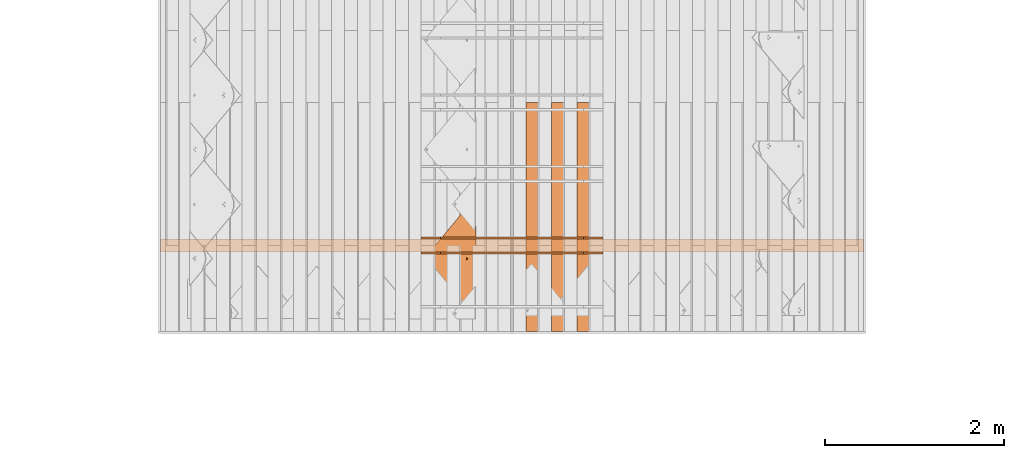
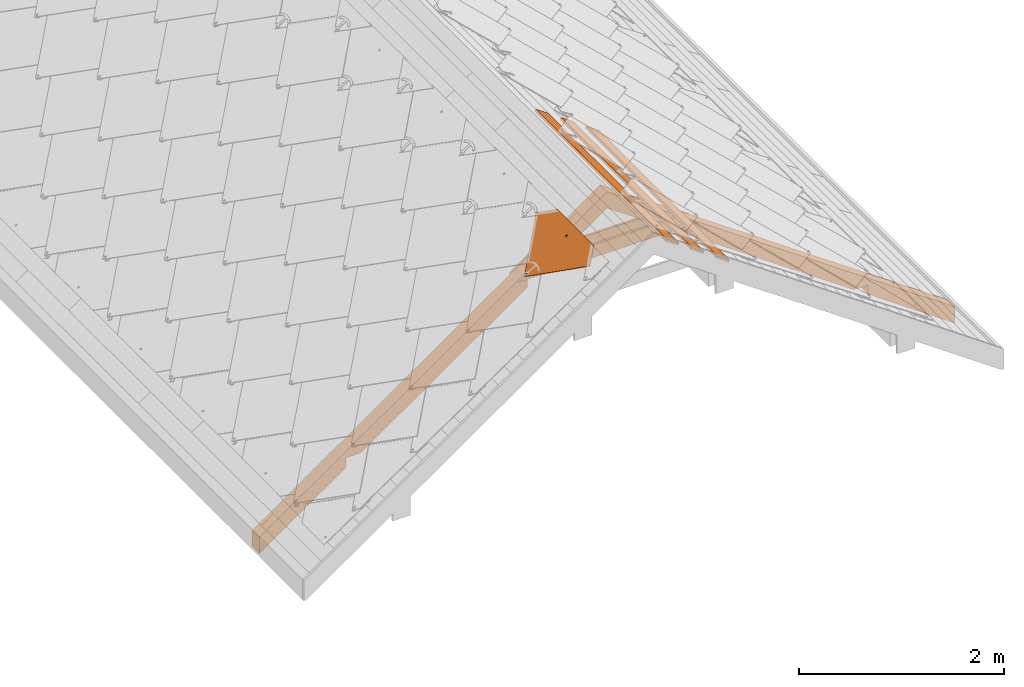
# One storey, part 15 of 133: 7 proxies, 1 element without a shape of its own.
"""IFC2X3 building model written with IfcOpenShell, lengths in millimetres."""

from ifc_helpers import new_model, entity, si_unit, converted_unit, derived_unit, direction, frame, frame_2d, origin, place, context, subcontext, project, spatial, polyline, rectangle, outline, extrude, faceted_brep, source, transform, mapped, material, material_list, type_object, type_shapes, element, aggregate, save


model = new_model("IFC2X3")

# Units and contexts
model_context = context("Model", 3, precision=0.01, world=origin(), true_north=direction((6.12303176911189e-17, 1.0)))
body_context = subcontext(model_context, "Body", "Model", "MODEL_VIEW")
ifc_project = project(units=[si_unit("LENGTHUNIT", "METRE", prefix="MILLI"), si_unit("AREAUNIT", "SQUARE_METRE"), si_unit("VOLUMEUNIT", "CUBIC_METRE"), converted_unit("PLANEANGLEUNIT", "DEGREE", entity("IfcRatioMeasure", 0.0174532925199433), si_unit("PLANEANGLEUNIT", "RADIAN"), dimensions=[0, 0, 0, 0, 0, 0, 0]), si_unit("MASSUNIT", "GRAM", prefix="KILO"), derived_unit("MASSDENSITYUNIT", [(si_unit("MASSUNIT", "GRAM", prefix="KILO"), 1), (si_unit("LENGTHUNIT", "METRE"), -3)]), si_unit("TIMEUNIT", "SECOND"), si_unit("FREQUENCYUNIT", "HERTZ"), si_unit("THERMODYNAMICTEMPERATUREUNIT", "DEGREE_CELSIUS"), derived_unit("THERMALTRANSMITTANCEUNIT", [(si_unit("MASSUNIT", "GRAM", prefix="KILO"), 1), (si_unit("THERMODYNAMICTEMPERATUREUNIT", "KELVIN"), -1), (si_unit("TIMEUNIT", "SECOND"), -3)]), derived_unit("VOLUMETRICFLOWRATEUNIT", [(si_unit("LENGTHUNIT", "METRE"), 3), (si_unit("TIMEUNIT", "SECOND"), -1)]), si_unit("ELECTRICCURRENTUNIT", "AMPERE"), si_unit("ELECTRICVOLTAGEUNIT", "VOLT"), si_unit("POWERUNIT", "WATT"), si_unit("FORCEUNIT", "NEWTON", prefix="KILO"), si_unit("ILLUMINANCEUNIT", "LUX"), si_unit("LUMINOUSFLUXUNIT", "LUMEN"), si_unit("LUMINOUSINTENSITYUNIT", "CANDELA"), derived_unit("USERDEFINED", [(si_unit("MASSUNIT", "GRAM", prefix="KILO"), -1), (si_unit("LENGTHUNIT", "METRE"), -2), (si_unit("TIMEUNIT", "SECOND"), 3), (si_unit("LUMINOUSFLUXUNIT", "LUMEN"), 1)]), derived_unit("LINEARVELOCITYUNIT", [(si_unit("LENGTHUNIT", "METRE"), 1), (si_unit("TIMEUNIT", "SECOND"), -1)]), si_unit("PRESSUREUNIT", "PASCAL"), derived_unit("USERDEFINED", [(si_unit("LENGTHUNIT", "METRE"), -2), (si_unit("MASSUNIT", "GRAM", prefix="KILO"), 1), (si_unit("TIMEUNIT", "SECOND"), -2)])], contexts=[model_context])

# Site, building, storey
site_placement = place(None, origin())
site = spatial("IfcSite", under=ifc_project, at=site_placement, Name="Default", CompositionType="ELEMENT")
building_placement = place(site_placement, origin())
building = spatial("IfcBuilding", under=site, at=building_placement, CompositionType="ELEMENT")
storey_placement = place(building_placement, origin())
storey = spatial("IfcBuildingStorey", under=building, at=storey_placement, Name="Level 1", CompositionType="ELEMENT", Elevation=0.0)

# Assembly, proxies
assembly_placement = place(storey_placement, origin())
assembly = element("IfcElementAssembly", 1, at=assembly_placement, inside=storey, Name="Structural Framing Assembly:Roof Construction Assembly", ObjectType="Structural Framing Assembly:Roof Construction Assembly", AssemblyPlace="NOTDEFINED", PredefinedType="USERDEFINED")
ifc_material_1 = material(Name="Wood - Generic - Wood For Showcase")
building_element_proxy_type_1 = type_object("IfcBuildingElementProxyType", Name="Structural Framing 1", PredefinedType="NOTDEFINED", material=ifc_material_1)
shared_shape_1 = source(origin(), body_context, "Body", "SweptSolid", [
    extrude(outline(polyline([(-929.245683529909, -1327.10037070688), (3863.2595049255, -1327.10037070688), (3975.29271103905, -1167.10037070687), (2778.93361405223, -1167.10037070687), (2713.54351952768, -1260.4871038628), (2580.17344271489, -1167.10037070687), (278.933614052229, -1167.10037070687), (213.543519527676, -1260.48710386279), (80.1734427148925, -1167.10037070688), (-817.212477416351, -1167.10037070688), (-1124.13653843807, -323.833443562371), (-1257.50661525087, -230.446710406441), (-1192.11652072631, -137.059977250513), (-1979.18689675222, 2025.39810840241), (-2112.55697356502, 2118.78484155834), (-2047.16687904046, 2212.17157471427), (-2456.3457888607, 3336.38138996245), (-2568.37899497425, 3176.38138996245), (-929.245683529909, -1327.10037070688)])), frame((1206.77890726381, 3785.55080214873, 1179.90959070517), z_axis=(0.0, 1.0, 0.0), x_axis=(0.819152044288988, 0.0, -0.573576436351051)), (0.0, 0.0, 1.0), 140.0),
])
type_shapes(building_element_proxy_type_1, [shared_shape_1])
proxy_1_placement = place(assembly_placement, frame((0.0, -9600.0, 0.0)))
proxy_1 = element("IfcBuildingElementProxy", 2, at=proxy_1_placement, type_object=building_element_proxy_type_1, material=ifc_material_1, Name="Structural Framing 13:Structural Framing 1", ObjectType="Structural Framing 13:Structural Framing 1", context=body_context, shape_type="MappedRepresentation", body=[
    mapped(shared_shape_1, transform((0.0, 0.0, 0.0), scale=1.0)),
])
building_element_proxy_type_2 = type_object("IfcBuildingElementProxyType", Name="Structural Framing 15", PredefinedType="NOTDEFINED", material=ifc_material_1)
shared_shape_2 = source(origin(), body_context, "Body", "SweptSolid", [
    extrude(rectangle(XDim=24.9999999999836, YDim=174.344679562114, at=frame_2d((3.73923114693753e-13, 6.3948846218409e-14), x_axis=(1.0, 0.0))), frame((1285.35601305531, 1437.09519417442, 2760.23940055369), z_axis=(0.0, 1.0, 0.0), x_axis=(0.573576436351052, 0.0, 0.819152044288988)), (0.0, 0.0, 1.0), 2558.4556079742),
])
type_shapes(building_element_proxy_type_2, [shared_shape_2])
proxy_2_placement = place(assembly_placement, frame((142.814800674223, -8140.0, -100.0)))
proxy_2 = element("IfcBuildingElementProxy", 3, at=proxy_2_placement, type_object=building_element_proxy_type_2, material=ifc_material_1, Name="Structural Framing 163:Structural Framing 15", ObjectType="Structural Framing 163:Structural Framing 15", context=body_context, shape_type="MappedRepresentation", body=[
    mapped(shared_shape_2, transform((0.0, 0.0, 0.0), scale=1.0)),
])
building_element_proxy_type_3 = type_object("IfcBuildingElementProxyType", Name="Structural Framing 15", PredefinedType="NOTDEFINED", material=ifc_material_1)
shared_shape_3 = source(origin(), body_context, "Body", "SweptSolid", [
    extrude(rectangle(XDim=24.9999999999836, YDim=174.344679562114, at=frame_2d((3.73923114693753e-13, 6.3948846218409e-14), x_axis=(1.0, 0.0))), frame((1285.35601305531, 1437.09519417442, 2760.23940055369), z_axis=(0.0, 1.0, 0.0), x_axis=(0.573576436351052, 0.0, 0.819152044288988)), (0.0, 0.0, 1.0), 2558.4556079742),
])
type_shapes(building_element_proxy_type_3, [shared_shape_3])
proxy_3_placement = place(assembly_placement, frame((428.444402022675, -8140.0, -300.0)))
proxy_3 = element("IfcBuildingElementProxy", 4, at=proxy_3_placement, type_object=building_element_proxy_type_3, material=ifc_material_1, Name="Structural Framing 173:Structural Framing 15", ObjectType="Structural Framing 173:Structural Framing 15", context=body_context, shape_type="MappedRepresentation", body=[
    mapped(shared_shape_3, transform((0.0, 0.0, 0.0), scale=1.0)),
])
building_element_proxy_type_4 = type_object("IfcBuildingElementProxyType", Name="Structural Framing 15", PredefinedType="NOTDEFINED", material=ifc_material_1)
shared_shape_4 = source(origin(), body_context, "Body", "SweptSolid", [
    extrude(rectangle(XDim=24.9999999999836, YDim=174.344679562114, at=frame_2d((3.73923114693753e-13, 6.3948846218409e-14), x_axis=(1.0, 0.0))), frame((1285.35601305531, 1437.09519417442, 2760.23940055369), z_axis=(0.0, 1.0, 0.0), x_axis=(0.573576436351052, 0.0, 0.819152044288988)), (0.0, 0.0, 1.0), 2558.4556079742),
])
type_shapes(building_element_proxy_type_4, [shared_shape_4])
proxy_4_placement = place(assembly_placement, frame((714.074003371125, -8140.0, -500.0)))
proxy_4 = element("IfcBuildingElementProxy", 5, at=proxy_4_placement, type_object=building_element_proxy_type_4, material=ifc_material_1, Name="Structural Framing 183:Structural Framing 15", ObjectType="Structural Framing 183:Structural Framing 15", context=body_context, shape_type="MappedRepresentation", body=[
    mapped(shared_shape_4, transform((0.0, 0.0, 0.0), scale=1.0)),
])
building_element_proxy_type_5 = type_object("IfcBuildingElementProxyType", Name="Structural Framing 296", PredefinedType="NOTDEFINED", material=ifc_material_1)
shared_shape_5 = source(origin(), body_context, "Body", "SweptSolid", [
    extrude(outline(polyline([(-1014.04699829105, -75.0), (1014.04699829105, -75.0), (799.824797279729, 75.0), (-799.824797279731, 75.0), (-1014.04699829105, -75.0)])), frame((1206.77890726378, 3760.55080214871, 2164.95664769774), z_axis=(0.0, 1.0, 0.0), x_axis=(-1.0, 0.0, 0.0)), (0.0, 0.0, 1.0), 24.9999999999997),
])
type_shapes(building_element_proxy_type_5, [shared_shape_5])
proxy_5_placement = place(assembly_placement, frame((0.0, -9600.0, 0.0)))
proxy_5 = element("IfcBuildingElementProxy", 6, at=proxy_5_placement, type_object=building_element_proxy_type_5, material=ifc_material_1, Name="Structural Framing 319:Structural Framing 296", ObjectType="Structural Framing 319:Structural Framing 296", context=body_context, shape_type="MappedRepresentation", body=[
    mapped(shared_shape_5, transform((0.0, 0.0, 0.0), scale=1.0)),
])
building_element_proxy_type_6 = type_object("IfcBuildingElementProxyType", Name="Structural Framing 296", PredefinedType="NOTDEFINED", material=ifc_material_1)
shared_shape_6 = source(origin(), body_context, "Body", "SweptSolid", [
    extrude(outline(polyline([(-1014.04699829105, -75.0), (1014.04699829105, -75.0), (799.824797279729, 75.0), (-799.824797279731, 75.0), (-1014.04699829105, -75.0)])), frame((1206.77890726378, 2325.55080214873, 2164.95664769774), z_axis=(0.0, 1.0, 0.0), x_axis=(-1.0, 0.0, 0.0)), (0.0, 0.0, 1.0), 25.0),
])
type_shapes(building_element_proxy_type_6, [shared_shape_6])
proxy_6_placement = place(assembly_placement, frame((0.0, -8000.0, 0.0)))
proxy_6 = element("IfcBuildingElementProxy", 7, at=proxy_6_placement, type_object=building_element_proxy_type_6, material=ifc_material_1, Name="Structural Framing 320:Structural Framing 296", ObjectType="Structural Framing 320:Structural Framing 296", context=body_context, shape_type="MappedRepresentation", body=[
    mapped(shared_shape_6, transform((0.0, 0.0, 0.0), scale=1.0)),
])
aggregate(assembly, [proxy_1, proxy_2, proxy_3, proxy_4, proxy_5, proxy_6])

# Proxy
ifc_material_2 = material(Name="Rubber - Sunstyle - Black")
ifc_material_3 = material(Name="Glass - Sunstyle - Tainted Black")
ifc_material_list_1 = material_list([ifc_material_2, ifc_material_3])
ifc_material_list_2 = material_list([ifc_material_2, ifc_material_3])
building_element_proxy_type_7 = type_object("IfcBuildingElementProxyType", Name="Shingle Top - Black", PredefinedType="NOTDEFINED", material=ifc_material_list_2)
shared_shape_7 = source(origin(), body_context, "Body", "Brep", [
    faceted_brep([(-518.396436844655, -96.9865733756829, 16.4476231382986), (-518.396436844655, -96.9614556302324, 17.9474128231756), (-526.881123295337, -88.4767691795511, 17.8053154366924), (-526.881123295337, -88.5018869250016, 16.3055257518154), (-376.996804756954, 61.3404039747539, 13.7960402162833), (-368.512118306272, 52.8557175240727, 13.9381376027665), (-376.996804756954, 61.3655217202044, 15.2958299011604), (-368.512118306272, 52.8808352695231, 15.4379272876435)], [[[0, 1, 2, 3]], [[0, 3, 4, 5]], [[3, 2, 6, 4]], [[2, 1, 7, 6]], [[1, 0, 5, 7]], [[5, 4, 6, 7]]]),
    faceted_brep([(0.166366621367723, -33.6374645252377, -4.47296585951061), (-5.6078362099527, -36.9707346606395, -4.4171418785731), (-5.60783620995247, -36.6024255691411, 17.5747274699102), (0.166366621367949, -33.2691554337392, 17.5189034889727), (-5.60783620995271, -43.6372749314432, -4.30549391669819), (-5.60783620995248, -43.2689658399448, 17.6863754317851), (0.166366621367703, -46.9705450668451, -4.24966993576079), (0.166366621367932, -46.6022359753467, 17.7421994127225), (5.94056945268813, -43.6372749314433, -4.30549391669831), (5.94056945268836, -43.2689658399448, 17.686375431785), (5.94056945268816, -36.9707346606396, -4.41714187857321), (5.94056945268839, -36.6024255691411, 17.5747274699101), (-8.43733754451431, -48.5381935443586, 17.774621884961), (0.16636662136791, -52.1014648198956, 17.8342978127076), (-12.0011084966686, -39.9356957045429, 17.6305514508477), (-8.43733754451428, -31.3331978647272, 17.4864810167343), (0.166366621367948, -27.7699265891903, 17.4268050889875), (8.77007078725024, -31.3331978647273, 17.4864810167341), (12.3338417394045, -39.935695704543, 17.6305514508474), (8.77007078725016, -48.5381935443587, 17.7746218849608), (-11.1578780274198, -37.6406185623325, 19.9433933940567), (-9.59010793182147, -39.8646808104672, 21.8708760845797), (0.166366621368, -32.5516055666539, 22.5035764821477), (0.166366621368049, -31.3111079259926, 21.9232298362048), (0.166366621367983, -29.1535570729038, 20.9138547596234), (0.166366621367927, -51.5454208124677, 19.1093557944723), (0.166366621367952, -50.6018442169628, 21.273060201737), (0.166366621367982, -47.1524685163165, 22.7481046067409), (0.166366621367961, -28.2829626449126, 18.7197675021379), (-6.15687907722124, -43.5022527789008, 22.6869725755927), (-6.15687907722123, -36.2018213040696, 22.5647085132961), (11.4906112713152, -42.1520387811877, 20.0189484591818), (10.0152467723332, -40.9390872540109, 21.7920079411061), (6.48961231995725, -36.2018213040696, 22.564708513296), (6.48961231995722, -43.5022527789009, 22.6869725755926), (-6.15687907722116, -43.3682243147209, 30.68986075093), (0.166366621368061, -47.0184400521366, 30.7509927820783), (0.166366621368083, -39.7180085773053, 30.6287287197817), (-6.15687907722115, -36.0677928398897, 30.5675966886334), (6.48961231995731, -43.368224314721, 30.6898607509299), (6.48961231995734, -36.0677928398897, 30.5675966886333), (0.166366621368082, -32.417577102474, 30.5064646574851), (0.166366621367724, -40.3040047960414, -4.36131789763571)], [[[0, 1, 2, 3]], [[1, 4, 5, 2]], [[4, 6, 7, 5]], [[6, 8, 9, 7]], [[8, 10, 11, 9]], [[10, 0, 3, 11]], [[12, 7, 13]], [[7, 12, 5]], [[14, 5, 12]], [[5, 14, 2]], [[15, 2, 14]], [[3, 2, 15]], [[15, 16, 3]], [[16, 17, 3]], [[11, 3, 17]], [[11, 17, 18]], [[9, 11, 18]], [[18, 19, 9]], [[7, 9, 19]], [[19, 13, 7]], [[20, 14, 12]], [[21, 22, 23, 24]], [[24, 20, 21]], [[25, 20, 12]], [[26, 27, 21]], [[15, 14, 20]], [[12, 13, 25]], [[20, 28, 15]], [[28, 20, 24]], [[21, 27, 29]], [[21, 29, 30]], [[26, 21, 20]], [[20, 25, 26]], [[15, 28, 16]], [[21, 30, 22]], [[31, 18, 17]], [[28, 31, 17]], [[32, 27, 26]], [[26, 31, 32]], [[26, 25, 31]], [[25, 19, 31]], [[17, 16, 28]], [[31, 19, 18]], [[24, 31, 28]], [[33, 34, 32]], [[23, 22, 33]], [[24, 32, 31]], [[27, 32, 34]], [[32, 23, 33]], [[19, 25, 13]], [[32, 24, 23]], [[35, 36, 37]], [[37, 38, 35]], [[36, 39, 37]], [[40, 37, 39]], [[37, 40, 41]], [[37, 41, 38]], [[42, 6, 4]], [[4, 1, 42]], [[1, 0, 42]], [[42, 8, 6]], [[0, 10, 42]], [[8, 42, 10]], [[22, 30, 38, 41]], [[30, 29, 35, 38]], [[29, 27, 36, 35]], [[27, 34, 39, 36]], [[34, 33, 40, 39]], [[33, 22, 41, 40]]]),
    faceted_brep([(0.0, -573.927138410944, 4.00636906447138), (-5.77420283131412, -577.260408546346, 4.0621930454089), (-5.77420283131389, -576.892099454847, 26.0540623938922), (0.0, -573.558829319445, 25.9982384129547), (-5.77420283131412, -583.926948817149, 4.1738410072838), (-5.7742028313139, -583.558639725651, 26.1657103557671), (0.0, -587.260218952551, 4.2296649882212), (0.0, -586.891909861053, 26.2215343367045), (5.77420283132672, -583.926948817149, 4.17384100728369), (5.77420283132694, -583.558639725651, 26.165710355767), (5.77420283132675, -577.260408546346, 4.06219304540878), (5.77420283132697, -576.892099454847, 26.0540623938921), (-8.60370416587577, -588.827867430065, 26.253956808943), (0.0, -592.391138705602, 26.3136327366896), (-12.1674751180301, -580.225369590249, 26.1098863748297), (-8.60370416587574, -571.622871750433, 25.9658159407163), (0.0, -568.059600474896, 25.9061400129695), (8.60370416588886, -571.622871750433, 25.9658159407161), (12.1674751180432, -580.225369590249, 26.1098863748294), (8.60370416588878, -588.827867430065, 26.2539568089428), (-11.3242446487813, -577.930292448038, 28.4227283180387), (-9.75647455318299, -580.154354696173, 30.3502110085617), (0.0, -572.84127945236, 30.9829114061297), (0.0, -571.600781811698, 30.4025647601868), (0.0, -569.44323095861, 29.3931896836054), (0.0, -591.835094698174, 27.5886907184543), (0.0, -590.891518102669, 29.752395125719), (0.0, -587.442142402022, 31.227439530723), (0.0, -568.572636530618, 27.1991024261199), (-6.32324569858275, -583.791926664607, 31.1663074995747), (-6.32324569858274, -576.491495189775, 31.0440434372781), (11.3242446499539, -582.441712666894, 28.4982833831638), (9.84888015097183, -581.228761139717, 30.2713428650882), (6.32324569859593, -576.491495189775, 31.044043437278), (6.32324569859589, -583.791926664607, 31.1663074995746), (-6.32324569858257, -583.657898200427, 39.169195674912), (0.0, -587.308113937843, 39.2303277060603), (0.0, -580.007682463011, 39.1080636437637), (-6.32324569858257, -576.357466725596, 39.0469316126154), (6.32324569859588, -583.657898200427, 39.1691956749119), (6.32324569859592, -576.357466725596, 39.0469316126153), (0.0, -572.70725098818, 38.9857995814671), (0.0, -580.593678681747, 4.11801702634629)], [[[0, 1, 2, 3]], [[1, 4, 5, 2]], [[4, 6, 7, 5]], [[6, 8, 9, 7]], [[8, 10, 11, 9]], [[10, 0, 3, 11]], [[12, 7, 13]], [[7, 12, 5]], [[14, 5, 12]], [[5, 14, 2]], [[15, 2, 14]], [[3, 2, 15]], [[15, 16, 3]], [[16, 17, 3]], [[11, 3, 17]], [[11, 17, 18]], [[9, 11, 18]], [[18, 19, 9]], [[7, 9, 19]], [[19, 13, 7]], [[20, 14, 12]], [[21, 22, 23, 24]], [[24, 20, 21]], [[25, 20, 12]], [[26, 27, 21]], [[15, 14, 20]], [[12, 13, 25]], [[20, 28, 15]], [[28, 20, 24]], [[21, 27, 29]], [[21, 29, 30]], [[26, 21, 20]], [[20, 25, 26]], [[15, 28, 16]], [[21, 30, 22]], [[31, 18, 17]], [[28, 31, 17]], [[32, 27, 26]], [[26, 31, 32]], [[26, 25, 31]], [[25, 19, 31]], [[17, 16, 28]], [[31, 19, 18]], [[24, 31, 28]], [[33, 34, 32]], [[23, 22, 33]], [[24, 32, 31]], [[27, 32, 34]], [[32, 23, 33]], [[19, 25, 13]], [[32, 24, 23]], [[35, 36, 37]], [[37, 38, 35]], [[36, 39, 37]], [[40, 37, 39]], [[37, 40, 41]], [[37, 41, 38]], [[42, 6, 4]], [[4, 1, 42]], [[1, 0, 42]], [[42, 8, 6]], [[0, 10, 42]], [[8, 42, 10]], [[22, 30, 38, 41]], [[30, 29, 35, 38]], [[29, 27, 36, 35]], [[27, 34, 39, 36]], [[34, 33, 40, 39]], [[33, 22, 41, 40]]]),
    faceted_brep([(518.482751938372, -96.8754983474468, 17.9260478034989), (526.967438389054, -88.3908118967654, 17.7839504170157), (526.967438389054, -88.3656941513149, 19.2837401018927), (518.482751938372, -96.8503806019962, 19.4258374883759), (349.749400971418, 71.8105397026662, 15.1009763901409), (358.234087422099, 80.2952261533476, 14.9588790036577), (358.234087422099, 80.3203438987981, 16.4586686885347), (349.749400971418, 71.8356574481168, 16.6007660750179)], [[[0, 1, 2, 3]], [[1, 0, 4, 5]], [[2, 1, 5, 6]], [[3, 2, 6, 7]], [[0, 3, 7, 4]], [[4, 7, 6, 5]]]),
    faceted_brep([(358.234087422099, 80.2952261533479, 14.9588790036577), (6.94661128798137, -35.8890860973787, 16.9046771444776), (7.74581466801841, -37.8182632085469, 16.9369860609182), (5.67526230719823, -34.2324641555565, 16.8769328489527), (8.01840805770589, -39.8885252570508, 16.9716577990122), (7.74581466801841, -41.9587873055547, 17.0063295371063), (6.94661128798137, -43.8879644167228, 17.0386384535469), (526.967438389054, -88.3908118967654, 17.7839504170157), (4.01840805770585, -32.9612934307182, 16.855643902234), (2.08896041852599, -32.1622021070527, 16.8422611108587), (0.0184080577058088, -31.8896469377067, 16.8376964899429), (-358.233442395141, 80.2952261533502, 14.9588790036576), (-2.05214430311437, -32.1622021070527, 16.8422611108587), (-3.98159194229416, -32.9612934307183, 16.855643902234), (-5.63844619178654, -34.2324641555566, 16.8769328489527), (-6.90979517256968, -35.8890860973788, 16.9046771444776), (-7.70899855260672, -37.8182632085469, 16.9369860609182), (-7.98159194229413, -39.8885252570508, 16.9716577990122), (-7.70899855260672, -41.9587873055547, 17.0063295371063), (-6.90979517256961, -43.8879644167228, 17.0386384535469), (-526.966793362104, -88.390811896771, 17.7839504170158), (-5.63844619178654, -45.544586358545, 17.0663827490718), (-5.6568542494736, -574.226981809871, 25.9204974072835), (-6.92820323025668, -575.883603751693, 25.9482417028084), (-7.72740661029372, -577.812780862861, 25.980550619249), (-8.0, -579.883042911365, 26.015222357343), (-7.72740661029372, -581.953304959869, 26.049894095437), (0.000322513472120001, -615.210165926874, 26.6068637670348), (7.72740661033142, -581.953304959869, 26.049894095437), (6.92820323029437, -583.882482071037, 26.0822030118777), (5.65685424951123, -585.53910401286, 26.1099473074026), (4.0, -586.810274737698, 26.1312362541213), (2.070552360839, -587.609366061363, 26.1446190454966), (0.0, -587.881921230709, 26.1491836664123), (-2.0705523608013, -587.609366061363, 26.1446190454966), (-4.0, -586.810274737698, 26.1312362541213), (-5.65685424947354, -585.53910401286, 26.1099473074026), (-6.92820323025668, -583.882482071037, 26.0822030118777), (-4.0, -572.955811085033, 25.8992084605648), (-3.98159194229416, -46.8157570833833, 17.0876716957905), (-2.07055236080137, -572.156719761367, 25.8858256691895), (-2.05214430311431, -47.614848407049, 17.1010544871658), (0.0, -571.884164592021, 25.8812610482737), (0.0184080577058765, -47.8874035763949, 17.1056191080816), (2.07055236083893, -572.156719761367, 25.8858256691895), (2.08896041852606, -47.6148484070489, 17.1010544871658), (4.0, -572.955811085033, 25.8992084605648), (4.01840805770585, -46.8157570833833, 17.0876716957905), (5.65685424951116, -574.226981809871, 25.9204974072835), (5.67526230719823, -45.544586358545, 17.0663827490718), (6.92820323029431, -575.883603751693, 25.9482417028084), (7.72740661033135, -577.812780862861, 25.980550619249), (8.0, -579.883042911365, 26.015222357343), (-358.233442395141, 80.1947551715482, 8.9597202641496), (-6.90979517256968, -35.9895570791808, 10.9055184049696), (-7.70899855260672, -37.9187341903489, 10.9378273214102), (-5.63844619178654, -34.3329351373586, 10.8777741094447), (-7.98159194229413, -39.9889962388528, 10.9724990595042), (-7.70899855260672, -42.0592582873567, 11.0071707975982), (-6.90979517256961, -43.9884353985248, 11.0394797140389), (-526.966793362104, -88.4912828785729, 11.7847916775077), (-3.98159194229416, -33.0617644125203, 10.856485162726), (-2.05214430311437, -32.2626730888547, 10.8431023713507), (0.0184080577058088, -31.9901179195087, 10.8385377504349), (358.234087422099, 80.1947551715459, 8.95972026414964), (2.08896041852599, -32.2626730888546, 10.8431023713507), (4.01840805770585, -33.0617644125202, 10.856485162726), (5.67526230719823, -34.3329351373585, 10.8777741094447), (6.94661128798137, -35.9895570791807, 10.9055184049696), (7.74581466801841, -37.9187341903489, 10.9378273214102), (8.01840805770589, -39.9889962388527, 10.9724990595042), (7.74581466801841, -42.0592582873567, 11.0071707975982), (6.94661128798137, -43.9884353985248, 11.0394797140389), (526.967438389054, -88.4912828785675, 11.7847916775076), (5.67526230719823, -45.645057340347, 11.0672240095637), (5.65685424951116, -574.327452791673, 19.9213386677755), (6.92820323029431, -575.984074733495, 19.9490829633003), (7.72740661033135, -577.913251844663, 19.981391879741), (8.0, -579.983513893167, 20.016063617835), (7.72740661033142, -582.053775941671, 20.050735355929), (0.000322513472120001, -615.310636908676, 20.6077050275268), (-7.72740661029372, -582.053775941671, 20.050735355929), (-6.92820323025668, -583.982953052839, 20.0830442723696), (-5.65685424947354, -585.639574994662, 20.1107885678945), (-4.0, -586.9107457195, 20.1320775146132), (-2.0705523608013, -587.709837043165, 20.1454603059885), (0.0, -587.982392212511, 20.1500249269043), (2.070552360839, -587.709837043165, 20.1454603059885), (4.0, -586.9107457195, 20.1320775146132), (5.65685424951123, -585.639574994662, 20.1107885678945), (6.92820323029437, -583.982953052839, 20.0830442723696), (4.01840805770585, -46.9162280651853, 11.0885129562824), (4.0, -573.056282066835, 19.9000497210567), (2.08896041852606, -47.7153193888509, 11.1018957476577), (2.07055236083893, -572.257190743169, 19.8866669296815), (0.0184080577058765, -47.9878745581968, 11.1064603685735), (0.0, -571.984635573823, 19.8821023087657), (-2.05214430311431, -47.7153193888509, 11.1018957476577), (-2.07055236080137, -572.257190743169, 19.8866669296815), (-3.98159194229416, -46.9162280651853, 11.0885129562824), (-4.0, -573.056282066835, 19.9000497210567), (-5.63844619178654, -45.645057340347, 11.0672240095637), (-5.6568542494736, -574.327452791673, 19.9213386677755), (-6.92820323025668, -575.984074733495, 19.9490829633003), (-7.72740661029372, -577.913251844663, 19.981391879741), (-8.0, -579.983513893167, 20.016063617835)], [[[0, 1, 2]], [[1, 0, 3]], [[0, 2, 4]], [[4, 5, 0]], [[5, 6, 0]], [[7, 0, 6]], [[8, 3, 0]], [[9, 8, 0]], [[10, 9, 0]], [[0, 11, 10]], [[12, 10, 11]], [[13, 12, 11]], [[14, 13, 11]], [[11, 15, 14]], [[15, 11, 16]], [[16, 11, 17]], [[11, 18, 17]], [[18, 11, 19]], [[11, 20, 19]], [[19, 20, 21]], [[20, 22, 21]], [[23, 22, 20]], [[24, 23, 20]], [[24, 20, 25]], [[26, 25, 20]], [[27, 26, 20]], [[7, 28, 27]], [[29, 27, 28]], [[27, 29, 30]], [[30, 31, 27]], [[31, 32, 27]], [[27, 32, 33]], [[27, 33, 34]], [[34, 35, 27]], [[27, 35, 36]], [[36, 37, 27]], [[37, 26, 27]], [[38, 21, 22]], [[38, 39, 21]], [[38, 40, 39]], [[40, 41, 39]], [[40, 42, 41]], [[41, 42, 43]], [[44, 43, 42]], [[44, 45, 43]], [[45, 44, 46]], [[46, 47, 45]], [[46, 48, 47]], [[48, 49, 47]], [[50, 7, 48]], [[48, 7, 49]], [[7, 50, 51]], [[7, 51, 52]], [[52, 28, 7]], [[7, 6, 49]], [[53, 54, 55]], [[54, 53, 56]], [[53, 55, 57]], [[58, 53, 57]], [[59, 53, 58]], [[60, 53, 59]], [[61, 56, 53]], [[62, 61, 53]], [[53, 63, 62]], [[63, 53, 64]], [[65, 63, 64]], [[66, 65, 64]], [[64, 67, 66]], [[67, 64, 68]], [[68, 64, 69]], [[70, 69, 64]], [[71, 70, 64]], [[72, 71, 64]], [[72, 64, 73]], [[72, 73, 74]], [[74, 73, 75]], [[73, 76, 75]], [[76, 73, 77]], [[77, 73, 78]], [[79, 78, 73]], [[79, 73, 80]], [[60, 81, 80]], [[80, 81, 82]], [[80, 82, 83]], [[83, 84, 80]], [[84, 85, 80]], [[85, 86, 80]], [[80, 86, 87]], [[80, 87, 88]], [[80, 88, 89]], [[79, 80, 90]], [[80, 89, 90]], [[75, 91, 74]], [[75, 92, 91]], [[92, 93, 91]], [[93, 92, 94]], [[93, 94, 95]], [[96, 95, 94]], [[97, 95, 96]], [[96, 98, 97]], [[98, 99, 97]], [[98, 100, 99]], [[100, 101, 99]], [[100, 102, 101]], [[60, 101, 102]], [[103, 60, 102]], [[103, 104, 60]], [[104, 105, 60]], [[105, 81, 60]], [[59, 101, 60]], [[27, 20, 60, 80]], [[7, 27, 80, 73]], [[0, 7, 73, 64]], [[25, 105, 104, 24]], [[24, 104, 103, 23]], [[38, 22, 102, 100]], [[102, 22, 23, 103]], [[40, 38, 100, 98]], [[40, 98, 96, 42]], [[42, 96, 94, 44]], [[44, 94, 92, 46]], [[50, 48, 75, 76]], [[75, 48, 46, 92]], [[51, 50, 76, 77]], [[51, 77, 78, 52]], [[52, 78, 79, 28]], [[28, 79, 90, 29]], [[31, 30, 89, 88]], [[29, 90, 89, 30]], [[87, 32, 31, 88]], [[32, 87, 86, 33]], [[34, 33, 86, 85]], [[34, 85, 84, 35]], [[37, 36, 83, 82]], [[35, 84, 83, 36]], [[37, 82, 81, 26]], [[26, 81, 105, 25]], [[17, 57, 55, 16]], [[16, 55, 54, 15]], [[13, 14, 56, 61]], [[56, 14, 15, 54]], [[12, 13, 61, 62]], [[12, 62, 63, 10]], [[10, 63, 65, 9]], [[9, 65, 66, 8]], [[1, 3, 67, 68]], [[67, 3, 8, 66]], [[2, 1, 68, 69]], [[2, 69, 70, 4]], [[4, 70, 71, 5]], [[5, 71, 72, 6]], [[47, 49, 74, 91]], [[74, 49, 6, 72]], [[45, 47, 91, 93]], [[45, 93, 95, 43]], [[43, 95, 97, 41]], [[41, 97, 99, 39]], [[19, 21, 101, 59]], [[101, 21, 39, 99]], [[18, 19, 59, 58]], [[18, 58, 57, 17]], [[11, 0, 64, 53]], [[20, 11, 53, 60]]]),
])
type_shapes(building_element_proxy_type_7, [shared_shape_7])
proxy_7_placement = place(storey_placement, frame((745.409615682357, -5891.94188979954, 2507.4651088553), z_axis=(-0.57357643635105, 0.0, 0.819152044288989), x_axis=(0.0, -1.0, 0.0)))
element("IfcBuildingElementProxy", 8, at=proxy_7_placement, inside=storey, type_object=building_element_proxy_type_7, material=ifc_material_list_1, Name="Roofing_Panels_SunStyle_Tile_Shingle-Top:Shingle Top - Black", ObjectType="Roofing_Panels_SunStyle_Tile_Shingle-Top:Shingle Top - Black", context=body_context, shape_type="MappedRepresentation", body=[
    mapped(shared_shape_7, transform((0.0, 0.0, 0.0), scale=1.0)),
])

save(model, "model.ifc")
